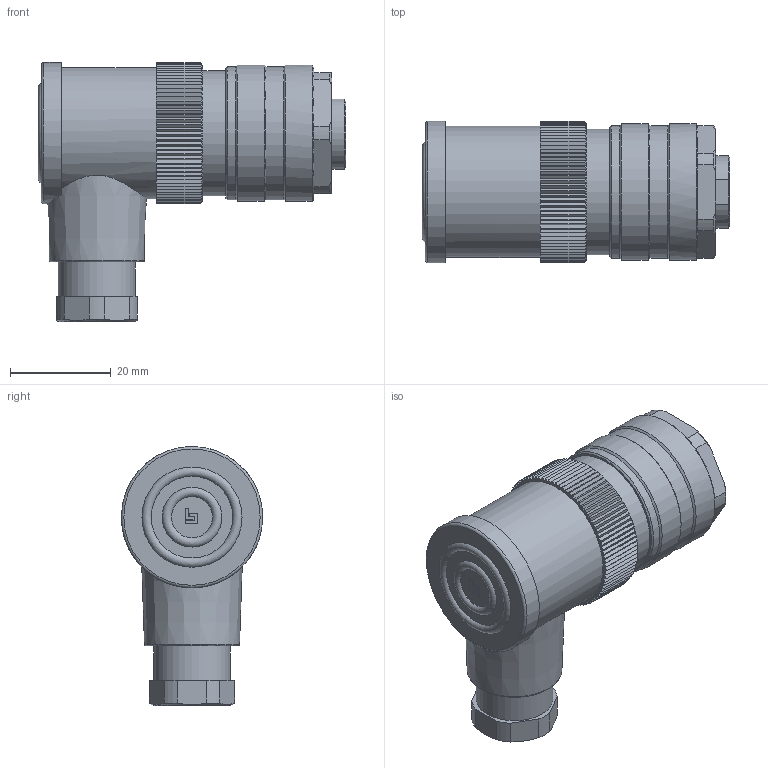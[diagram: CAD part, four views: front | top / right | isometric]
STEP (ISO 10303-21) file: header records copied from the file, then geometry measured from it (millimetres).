
FILE_DESCRIPTION(/* description */ (''),/* implementation_level */ '2;1');
FILE_NAME(/* name */ '99-2444-52-05_bg.stp',/* time_stamp */ '2010-06-02T16:26:51+02:00',/* author */ (''),/* organization */ (''),/* preprocessor_version */ 'ST-DEVELOPER v11',/* originating_system */ 'UGS - NX 5.0',/* authorisation */ '');
FILE_SCHEMA (('CONFIG_CONTROL_DESIGN'));
Length unit declared in the file: millimetre
Products named in the file (1): kbor0146dktd
Bounding box: 60.9 x 28 x 51.3 mm (x, y, z)
Volume: 36159.6 mm3; surface area: 11163.4 mm2
Topology: 1 solids, 1 shells, 528 faces, 1295 edges, 788 vertices
Faces by surface type: plane 306, cone 154, cylinder 55, torus 13
Full cylindrical faces by diameter (mm): 2.1 x5, 2.55 x5, 3.4 x5, 14.3 x1, 15.2 x1, 17.8 x1, 20.498 x1, 24.8 x2, 26 x1, 26.3 x2, 27 x2, 28 x1
Entity records: 15479 total; most frequent: CARTESIAN_POINT 3810, ORIENTED_EDGE 2404, DIRECTION 2307, EDGE_CURVE 1202, AXIS2_PLACEMENT_3D 868, VERTEX_POINT 755, EDGE_LOOP 602, LINE 571
